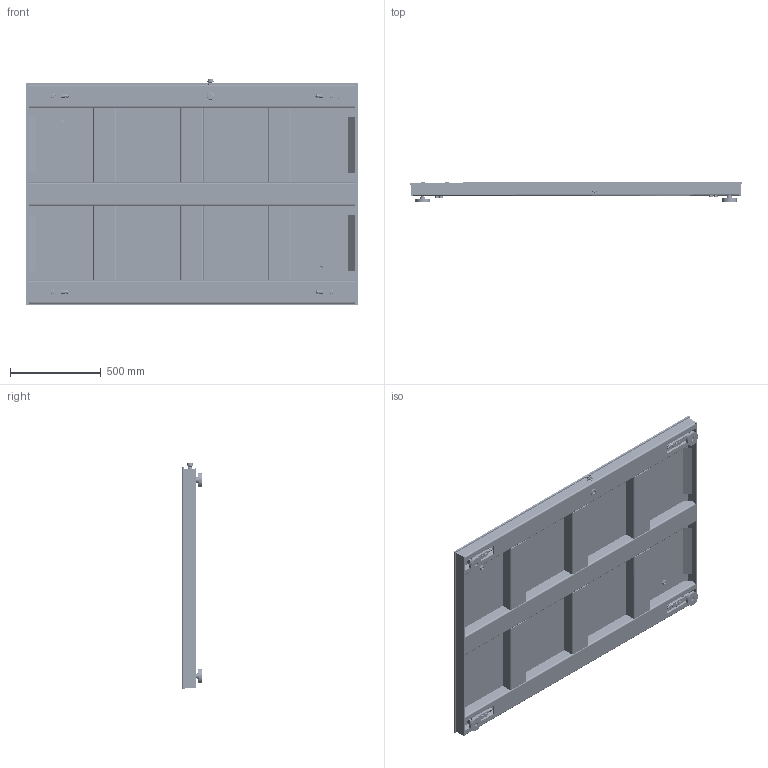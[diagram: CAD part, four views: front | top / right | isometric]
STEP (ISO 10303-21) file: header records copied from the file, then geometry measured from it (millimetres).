
FILE_DESCRIPTION (( 'STEP AP214' ), '1' );
FILE_NAME ('HIFS-4872 Series.STEP', '2019-10-17T15:30:52', ( '' ), ( '' ), 'SwSTEP 2.0', 'SolidWorks 2017', '' );
FILE_SCHEMA (( 'AUTOMOTIVE_DESIGN' ));
Length unit declared in the file: inch
Products named in the file (60): 100-90410_Chamfer Both Sides; 100-90411; 91800A236_91800A236; 800-000166; Phoenix_1751141; Hex Nut - 5_8 - 11_SS; Gland; 900-100111; Mini Cable Adapter; Mini Cable; 0530-0852-01-0; Cable Adapter Nut; 100-80340_SS; 6007-0097-0; 900-100128; 100-82328; HP-00007_SS; 0508-0918-01_ENCLOSURE ASSY; Pin 4-6362E-1 Rubber Foot; 5504-0012 foot insert; blind standoff_pmm_PEM BSO4-M3-6; 93625A150_93625A150; HI 6011 ASSEMBLY; Socket Countersunk Head Cap Screw - 1_4 - 20_0.75 SS; 5504-0012; 0524-0038-01-0; HIFS-4872 Series; 0529-0024-01-0; HP-00047; 5504-0012 Rubber; Phoenix_1751167; 5504-0012 threaded insert; HP-00048; flat washer type a selected narrow_ai_Selected Narrow FW 0.156; 2814-0095-0; 0535-0575-XX-0 PWA; pan cross head_ai_CR-PHMS 0.138-32x0.25x0.25-C; 100-90407; 2818-0128-0_91287A010; HM-SS-5K_SS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
Assembly tree (117 placements, depth 6):
  HIFS-4872 Series
    100-90407
    100-80340_SS  x2
    100-82172_SS Smooth 3_8
    Socket Countersunk Head Cap Screw - 1_4 - 20_0.75 SS  x2
    Hex Nut - 5_8 - 11_SS  x2
    HP-00047
    HP-00048
    100-90410_Chamfer Both Sides
    100-90411  x6
    100-82328  x2
    HP-00035  x4
    0530-0825-01-0  x3
    900-100111
    800-000166
    900-100115
    900-100128  x6
    HM-SS-5K_SS  x4
      HP-00007_SS
      HI SBHF14-5K
        Mini Cable Adapter
          Mini Cable
          Gland
          Cable Adapter Nut
            Adapter Nut
          Cable Adapter
        HI SBHF14-5K-Cell
      Hex Bolt - 1_2 - 20_2.25 SS
      5504-0012
        Pin 4-6362E-1 Rubber Foot
        93625A150_93625A150
        91800A236_91800A236
        ORING
        5504-0012 foot insert
        5504-0012 Rubber
        5504-0012 threaded insert
      HP-00003_SS
    HI 6011 ASSEMBLY
      0508-0918-01_ENCLOSURE ASSY
        0508-0918-001_ENCLOSURE ASSY
          0508-0918-001_ENCLOSURE
          blind standoff_pmm_PEM BSO4-M3-6  x8
          PEM BSO4-632-10  x4
        0508-0918-003_COVER_Default<As Machined>
        0508-0918-002_PLATE
      0524-0038-01-0
      0535-0575-XX-0 PWA
        0534-0575-01-0 PWB
        Phoenix_1751141
          smkds_1-7-3.5
        smkds_1-7-3.5  x3
        Phoenix_1751167
          smkds_1-9-3.5
      2817-0188  x4
        flat washer type a selected narrow_ai_Selected Narrow FW 0.156
        pan cross head_ai_CR-PHMS 0.138-32x0.25x0.25-C
      0529-0024-01-0  x5
      6007-0097-0  x5
      2814-0095-0  x5
      2818-0128-0_91287A010  x8
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Bounding box: 1828.81 x 108.4 x 1241.45 mm (x, y, z)
Volume: 33787490.3 mm3; surface area: 9561524.4 mm2
Topology: 666 solids, 670 shells, 20104 faces, 50967 edges, 33021 vertices
Faces by surface type: plane 8763, bspline 6621, cylinder 2749, cone 1799, torus 156, sphere 16
Full cylindrical faces by diameter (mm): 10 x4
Entity records: 699839 total; most frequent: CARTESIAN_POINT 221961, ORIENTED_EDGE 74368, DIRECTION 43477, EDGE_CURVE 37184, VERTEX_POINT 24515, VECTOR 22727, LINE 22727, EDGE_LOOP 15225
